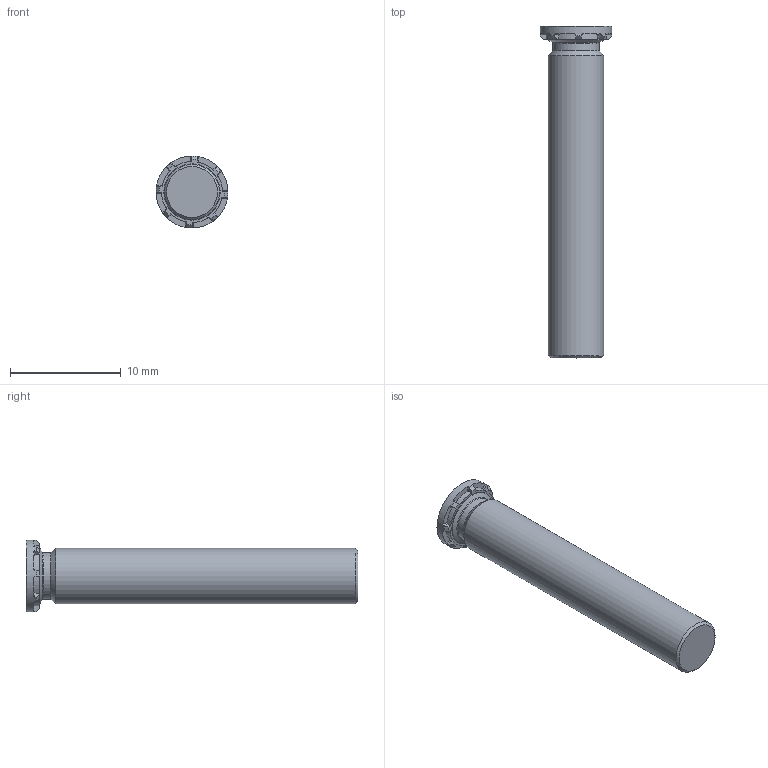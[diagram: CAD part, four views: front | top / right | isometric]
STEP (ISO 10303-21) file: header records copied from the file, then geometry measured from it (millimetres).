
FILE_DESCRIPTION(/* description */ (''),/* implementation_level */ '2;1');
FILE_NAME(/* name */ 'C:\Users\keval.kumar\Desktop\Fastit\Clinch Screw- FH Range\M5\Clinch Screw-FH Range_M5x30.stp',/* time_stamp */ '2024-03-12T12:01:54+06:00',/* author */ ('keval.kumar'),/* organization */ (''),/* preprocessor_version */ 'ST-DEVELOPER v18.1',/* originating_system */ 'Autodesk Inventor 2022',/* authorisation */ '');
FILE_SCHEMA (('AUTOMOTIVE_DESIGN { 1 0 10303 214 3 1 1 }'));
Length unit declared in the file: millimetre
Products named in the file (1): Clinch Screw-FH Range_M5x30
Bounding box: 6.5 x 30 x 6.5 mm (x, y, z)
Volume: 594.9 mm3; surface area: 544.4 mm2
Topology: 1 solids, 1 shells, 68 faces, 193 edges, 128 vertices
Faces by surface type: plane 43, cylinder 12, cone 11, torus 2
Full cylindrical faces by diameter (mm): 4.2 x1, 5 x1, 5.1 x1, 6.5 x1
Entity records: 2286 total; most frequent: DIRECTION 413, CARTESIAN_POINT 406, ORIENTED_EDGE 386, EDGE_CURVE 193, AXIS2_PLACEMENT_3D 159, VERTEX_POINT 128, LINE 95, VECTOR 95
